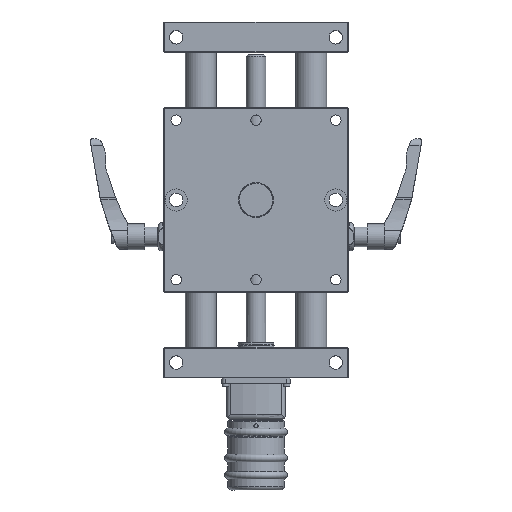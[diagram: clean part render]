
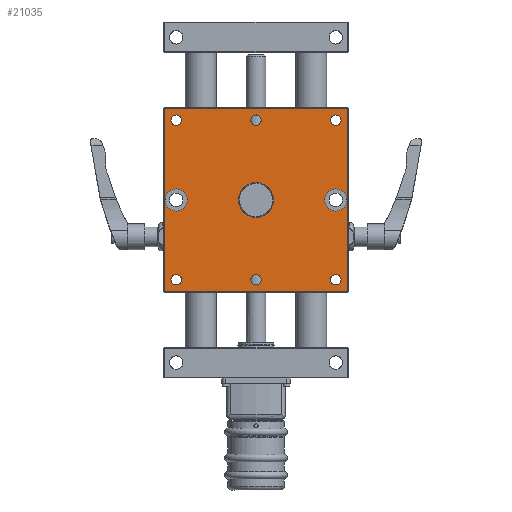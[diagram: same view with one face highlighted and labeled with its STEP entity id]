
A CAD part, front view. The second image highlights one B-rep face of the part: STEP entity #21035.
In plain terms, the highlighted planar face has unit normal (0, -1, 0) as drawn and (0, 0, -1) by its records, which use the part's own axes.
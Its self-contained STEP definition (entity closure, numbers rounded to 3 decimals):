
#43 = EDGE_LOOP ( 'NONE', ( #10891 ) ) ;
#49 = VECTOR ( 'NONE', #7656, 1000. ) ;
#87 = CARTESIAN_POINT ( 'NONE',  ( 10., 140., -50. ) ) ;
#148 = DIRECTION ( 'NONE',  ( 0., 0., -1. ) ) ;
#240 = DIRECTION ( 'NONE',  ( -1., 0., 0. ) ) ;
#640 = DIRECTION ( 'NONE',  ( 0., 0., 1. ) ) ;
#1341 = CARTESIAN_POINT ( 'NONE',  ( 149.8, 149.8, -50. ) ) ;
#1384 = FACE_BOUND ( 'NONE', #13629, .T. ) ;
#1501 = DIRECTION ( 'NONE',  ( 0., 0., -1. ) ) ;
#1743 = CARTESIAN_POINT ( 'NONE',  ( 10., 75., -50. ) ) ;
#1764 = CARTESIAN_POINT ( 'NONE',  ( 149.8, 0., -50. ) ) ;
#1808 = VECTOR ( 'NONE', #8648, 1000. ) ;
#1919 = EDGE_CURVE ( 'NONE', #20384, #4269, #16244, .T. ) ;
#2049 = CARTESIAN_POINT ( 'NONE',  ( 75., 75., -50. ) ) ;
#2299 = ORIENTED_EDGE ( 'NONE', *, *, #14400, .F. ) ;
#2310 = ORIENTED_EDGE ( 'NONE', *, *, #4331, .T. ) ;
#2352 = DIRECTION ( 'NONE',  ( -1., 0., 0. ) ) ;
#2663 = ORIENTED_EDGE ( 'NONE', *, *, #14103, .T. ) ;
#2787 = DIRECTION ( 'NONE',  ( 0., 0., -1. ) ) ;
#2898 = FACE_BOUND ( 'NONE', #7515, .T. ) ;
#3067 = ORIENTED_EDGE ( 'NONE', *, *, #5487, .F. ) ;
#3071 = EDGE_LOOP ( 'NONE', ( #6035 ) ) ;
#3182 = CARTESIAN_POINT ( 'NONE',  ( 10., 10., -50. ) ) ;
#3187 = CIRCLE ( 'NONE', #11458, 4.25 ) ;
#3227 = ORIENTED_EDGE ( 'NONE', *, *, #11319, .F. ) ;
#3248 = DIRECTION ( 'NONE',  ( 0., 0., -1. ) ) ;
#3343 = VERTEX_POINT ( 'NONE', #16754 ) ;
#3869 = DIRECTION ( 'NONE',  ( -1., 0., 0. ) ) ;
#3994 = CARTESIAN_POINT ( 'NONE',  ( 75., 10., -50. ) ) ;
#4269 = VERTEX_POINT ( 'NONE', #15684 ) ;
#4277 = CARTESIAN_POINT ( 'NONE',  ( 140., 140., -50. ) ) ;
#4297 = ORIENTED_EDGE ( 'NONE', *, *, #11221, .T. ) ;
#4331 = EDGE_CURVE ( 'NONE', #18252, #20384, #20859, .T. ) ;
#4381 = FACE_BOUND ( 'NONE', #43, .T. ) ;
#4492 = CARTESIAN_POINT ( 'NONE',  ( 135.75, 140., -50. ) ) ;
#4521 = CIRCLE ( 'NONE', #15607, 14.2 ) ;
#4606 = VERTEX_POINT ( 'NONE', #11090 ) ;
#4720 = ORIENTED_EDGE ( 'NONE', *, *, #14940, .F. ) ;
#4881 = CIRCLE ( 'NONE', #16986, 4.25 ) ;
#5162 = ORIENTED_EDGE ( 'NONE', *, *, #10230, .F. ) ;
#5487 = EDGE_CURVE ( 'NONE', #20139, #20139, #8410, .T. ) ;
#6035 = ORIENTED_EDGE ( 'NONE', *, *, #16043, .F. ) ;
#6215 = FACE_BOUND ( 'NONE', #18560, .T. ) ;
#6232 = DIRECTION ( 'NONE',  ( -1., 0., 0. ) ) ;
#6496 = ORIENTED_EDGE ( 'NONE', *, *, #6615, .F. ) ;
#6615 = EDGE_CURVE ( 'NONE', #12315, #12315, #20235, .T. ) ;
#6652 = DIRECTION ( 'NONE',  ( -1., 0., 0. ) ) ;
#6662 = EDGE_LOOP ( 'NONE', ( #4720 ) ) ;
#6913 = AXIS2_PLACEMENT_3D ( 'NONE', #13532, #11893, #240 ) ;
#7085 = CARTESIAN_POINT ( 'NONE',  ( 75., 140., -50. ) ) ;
#7168 = VECTOR ( 'NONE', #8207, 1000. ) ;
#7515 = EDGE_LOOP ( 'NONE', ( #6496 ) ) ;
#7618 = FACE_BOUND ( 'NONE', #15786, .T. ) ;
#7656 = DIRECTION ( 'NONE',  ( 1., 0., 0. ) ) ;
#7944 = PLANE ( 'NONE',  #13496 ) ;
#7946 = VERTEX_POINT ( 'NONE', #4492 ) ;
#8098 = CARTESIAN_POINT ( 'NONE',  ( 0.2, 150., -50. ) ) ;
#8207 = DIRECTION ( 'NONE',  ( 0., 1., 0. ) ) ;
#8410 = CIRCLE ( 'NONE', #14658, 4.25 ) ;
#8648 = DIRECTION ( 'NONE',  ( 0., -1., 0. ) ) ;
#8655 = CARTESIAN_POINT ( 'NONE',  ( 140., 10., -50. ) ) ;
#8672 = CIRCLE ( 'NONE', #13875, 9. ) ;
#8878 = CARTESIAN_POINT ( 'NONE',  ( 149.8, 0.2, -50. ) ) ;
#8930 = CARTESIAN_POINT ( 'NONE',  ( 5.75, 10., -50. ) ) ;
#9038 = FACE_BOUND ( 'NONE', #6662, .T. ) ;
#9134 = CARTESIAN_POINT ( 'NONE',  ( 0., 150., -50. ) ) ;
#9137 = VERTEX_POINT ( 'NONE', #8930 ) ;
#9362 = DIRECTION ( 'NONE',  ( -1., 0., 0. ) ) ;
#9755 = DIRECTION ( 'NONE',  ( -1., 0., 0. ) ) ;
#9814 = DIRECTION ( 'NONE',  ( -1., 0., 0. ) ) ;
#9935 = AXIS2_PLACEMENT_3D ( 'NONE', #87, #1501, #6652 ) ;
#10111 = CARTESIAN_POINT ( 'NONE',  ( 66., 10., -50. ) ) ;
#10230 = EDGE_CURVE ( 'NONE', #3343, #3343, #13043, .T. ) ;
#10233 = VERTEX_POINT ( 'NONE', #18051 ) ;
#10307 = EDGE_LOOP ( 'NONE', ( #5162 ) ) ;
#10373 = AXIS2_PLACEMENT_3D ( 'NONE', #1743, #3248, #9814 ) ;
#10825 = VERTEX_POINT ( 'NONE', #1341 ) ;
#10891 = ORIENTED_EDGE ( 'NONE', *, *, #12529, .F. ) ;
#11088 = FACE_BOUND ( 'NONE', #10307, .T. ) ;
#11090 = CARTESIAN_POINT ( 'NONE',  ( 60.8, 75., -50. ) ) ;
#11221 = EDGE_CURVE ( 'NONE', #4269, #10825, #14287, .T. ) ;
#11319 = EDGE_CURVE ( 'NONE', #10233, #10233, #19719, .T. ) ;
#11458 = AXIS2_PLACEMENT_3D ( 'NONE', #3182, #14326, #9755 ) ;
#11573 = LINE ( 'NONE', #1764, #1808 ) ;
#11790 = DIRECTION ( 'NONE',  ( -1., 0., 0. ) ) ;
#11893 = DIRECTION ( 'NONE',  ( 0., 0., -1. ) ) ;
#12315 = VERTEX_POINT ( 'NONE', #18922 ) ;
#12529 = EDGE_CURVE ( 'NONE', #9137, #9137, #3187, .T. ) ;
#12651 = CARTESIAN_POINT ( 'NONE',  ( 0.2, 0.2, -50. ) ) ;
#12693 = VECTOR ( 'NONE', #6232, 1000. ) ;
#12934 = DIRECTION ( 'NONE',  ( 0., 0., -1. ) ) ;
#13043 = CIRCLE ( 'NONE', #9935, 4.25 ) ;
#13444 = DIRECTION ( 'NONE',  ( 0., 0., -1. ) ) ;
#13482 = DIRECTION ( 'NONE',  ( 0., 0., -1. ) ) ;
#13496 = AXIS2_PLACEMENT_3D ( 'NONE', #9134, #12934, #17708 ) ;
#13532 = CARTESIAN_POINT ( 'NONE',  ( 140., 75., -50. ) ) ;
#13629 = EDGE_LOOP ( 'NONE', ( #2663 ) ) ;
#13875 = AXIS2_PLACEMENT_3D ( 'NONE', #3994, #13444, #20050 ) ;
#14103 = EDGE_CURVE ( 'NONE', #4606, #4606, #4521, .T. ) ;
#14287 = LINE ( 'NONE', #14708, #49 ) ;
#14326 = DIRECTION ( 'NONE',  ( 0., 0., -1. ) ) ;
#14357 = AXIS2_PLACEMENT_3D ( 'NONE', #7085, #13482, #2352 ) ;
#14400 = EDGE_CURVE ( 'NONE', #7946, #7946, #4881, .T. ) ;
#14578 = FACE_BOUND ( 'NONE', #3071, .T. ) ;
#14658 = AXIS2_PLACEMENT_3D ( 'NONE', #8655, #148, #11790 ) ;
#14708 = CARTESIAN_POINT ( 'NONE',  ( 150., 149.8, -50. ) ) ;
#14891 = EDGE_CURVE ( 'NONE', #10825, #18252, #11573, .T. ) ;
#14940 = EDGE_CURVE ( 'NONE', #15993, #15993, #17988, .T. ) ;
#15512 = ORIENTED_EDGE ( 'NONE', *, *, #14891, .T. ) ;
#15607 = AXIS2_PLACEMENT_3D ( 'NONE', #2049, #640, #3869 ) ;
#15684 = CARTESIAN_POINT ( 'NONE',  ( 0.2, 149.8, -50. ) ) ;
#15786 = EDGE_LOOP ( 'NONE', ( #3067 ) ) ;
#15993 = VERTEX_POINT ( 'NONE', #17916 ) ;
#16043 = EDGE_CURVE ( 'NONE', #18131, #18131, #8672, .T. ) ;
#16193 = FACE_OUTER_BOUND ( 'NONE', #19122, .T. ) ;
#16244 = LINE ( 'NONE', #8098, #7168 ) ;
#16487 = EDGE_LOOP ( 'NONE', ( #2299 ) ) ;
#16754 = CARTESIAN_POINT ( 'NONE',  ( 5.75, 140., -50. ) ) ;
#16986 = AXIS2_PLACEMENT_3D ( 'NONE', #4277, #2787, #9362 ) ;
#17275 = FACE_BOUND ( 'NONE', #16487, .T. ) ;
#17708 = DIRECTION ( 'NONE',  ( -1., 0., 0. ) ) ;
#17916 = CARTESIAN_POINT ( 'NONE',  ( 135.75, 75., -50. ) ) ;
#17988 = CIRCLE ( 'NONE', #6913, 4.25 ) ;
#18051 = CARTESIAN_POINT ( 'NONE',  ( 5.75, 75., -50. ) ) ;
#18131 = VERTEX_POINT ( 'NONE', #10111 ) ;
#18252 = VERTEX_POINT ( 'NONE', #8878 ) ;
#18560 = EDGE_LOOP ( 'NONE', ( #3227 ) ) ;
#18922 = CARTESIAN_POINT ( 'NONE',  ( 66., 140., -50. ) ) ;
#19122 = EDGE_LOOP ( 'NONE', ( #15512, #2310, #19501, #4297 ) ) ;
#19501 = ORIENTED_EDGE ( 'NONE', *, *, #1919, .T. ) ;
#19719 = CIRCLE ( 'NONE', #10373, 4.25 ) ;
#20025 = CARTESIAN_POINT ( 'NONE',  ( 135.75, 10., -50. ) ) ;
#20050 = DIRECTION ( 'NONE',  ( -1., 0., 0. ) ) ;
#20139 = VERTEX_POINT ( 'NONE', #20025 ) ;
#20235 = CIRCLE ( 'NONE', #14357, 9. ) ;
#20384 = VERTEX_POINT ( 'NONE', #12651 ) ;
#20859 = LINE ( 'NONE', #21071, #12693 ) ;
#21035 = ADVANCED_FACE ( 'NONE', ( #17275, #9038, #7618, #4381, #6215, #11088, #2898, #14578, #1384, #16193 ), #7944, .T. ) ;
#21071 = CARTESIAN_POINT ( 'NONE',  ( 0., 0.2, -50. ) ) ;
